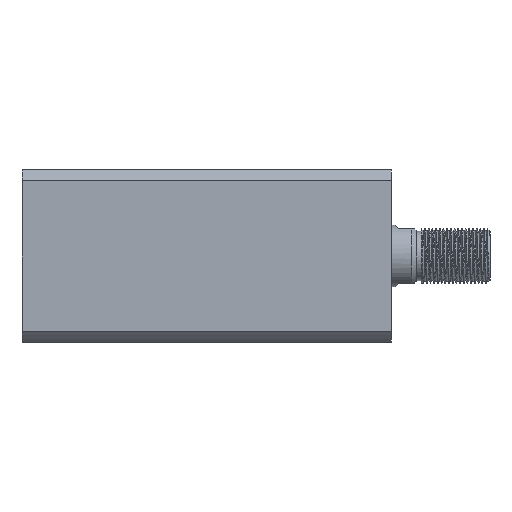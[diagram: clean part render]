
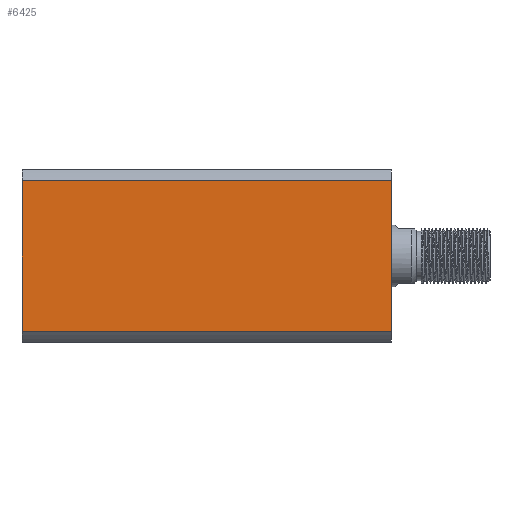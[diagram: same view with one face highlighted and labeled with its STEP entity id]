
A CAD part, left-side view. The second image highlights one B-rep face of the part: STEP entity #6425.
In plain terms, the highlighted planar face has unit normal (-1, 0, 0) as drawn and (0, 1, 0) by its records, which use the part's own axes.
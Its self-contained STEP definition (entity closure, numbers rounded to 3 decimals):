
#111 = LINE ( 'NONE', #12019, #2550 ) ;
#228 = ORIENTED_EDGE ( 'NONE', *, *, #5731, .T. ) ;
#249 = VECTOR ( 'NONE', #11013, 1000. ) ;
#349 = EDGE_CURVE ( 'NONE', #1666, #9845, #111, .T. ) ;
#975 = EDGE_LOOP ( 'NONE', ( #6158, #8613, #5822, #228 ) ) ;
#1088 = DIRECTION ( 'NONE',  ( 0., 0., -1. ) ) ;
#1588 = CARTESIAN_POINT ( 'NONE',  ( 30.615, 35., 150. ) ) ;
#1666 = VERTEX_POINT ( 'NONE', #12874 ) ;
#2520 = LINE ( 'NONE', #5441, #13365 ) ;
#2550 = VECTOR ( 'NONE', #10993, 1000. ) ;
#2554 = VECTOR ( 'NONE', #3374, 1000. ) ;
#2956 = CARTESIAN_POINT ( 'NONE',  ( -35., 35., 150. ) ) ;
#3016 = LINE ( 'NONE', #5750, #249 ) ;
#3036 = CARTESIAN_POINT ( 'NONE',  ( -30.615, 35., 0. ) ) ;
#3374 = DIRECTION ( 'NONE',  ( -1., 0., 0. ) ) ;
#3761 = VERTEX_POINT ( 'NONE', #3036 ) ;
#3764 = AXIS2_PLACEMENT_3D ( 'NONE', #2956, #7420, #1088 ) ;
#5441 = CARTESIAN_POINT ( 'NONE',  ( -30.615, 35., 300. ) ) ;
#5731 = EDGE_CURVE ( 'NONE', #1666, #3761, #3016, .T. ) ;
#5750 = CARTESIAN_POINT ( 'NONE',  ( -35., 35., 0. ) ) ;
#5822 = ORIENTED_EDGE ( 'NONE', *, *, #349, .F. ) ;
#6158 = ORIENTED_EDGE ( 'NONE', *, *, #6780, .F. ) ;
#6271 = VERTEX_POINT ( 'NONE', #10909 ) ;
#6425 = ADVANCED_FACE ( 'NONE', ( #8651 ), #10320, .F. ) ;
#6780 = EDGE_CURVE ( 'NONE', #6271, #3761, #2520, .T. ) ;
#7420 = DIRECTION ( 'NONE',  ( 0., -1., 0. ) ) ;
#7532 = LINE ( 'NONE', #10731, #2554 ) ;
#8613 = ORIENTED_EDGE ( 'NONE', *, *, #10013, .F. ) ;
#8651 = FACE_OUTER_BOUND ( 'NONE', #975, .T. ) ;
#9845 = VERTEX_POINT ( 'NONE', #1588 ) ;
#10013 = EDGE_CURVE ( 'NONE', #9845, #6271, #7532, .T. ) ;
#10320 = PLANE ( 'NONE',  #3764 ) ;
#10731 = CARTESIAN_POINT ( 'NONE',  ( -35., 35., 150. ) ) ;
#10909 = CARTESIAN_POINT ( 'NONE',  ( -30.615, 35., 150. ) ) ;
#10993 = DIRECTION ( 'NONE',  ( 0., 0., 1. ) ) ;
#11013 = DIRECTION ( 'NONE',  ( -1., 0., 0. ) ) ;
#12019 = CARTESIAN_POINT ( 'NONE',  ( 30.615, 35., 300. ) ) ;
#12744 = DIRECTION ( 'NONE',  ( 0., 0., -1. ) ) ;
#12874 = CARTESIAN_POINT ( 'NONE',  ( 30.615, 35., 0. ) ) ;
#13365 = VECTOR ( 'NONE', #12744, 1000. ) ;
